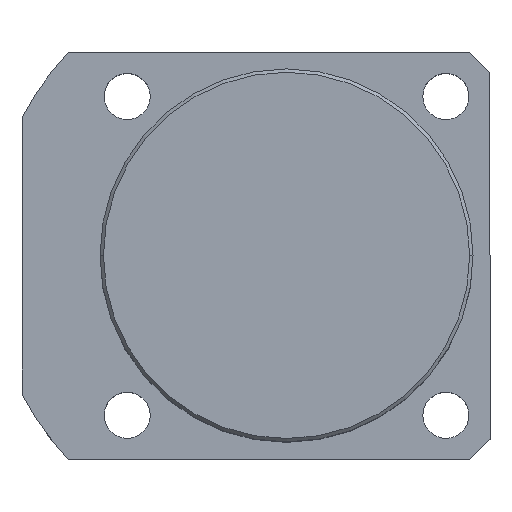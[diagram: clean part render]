
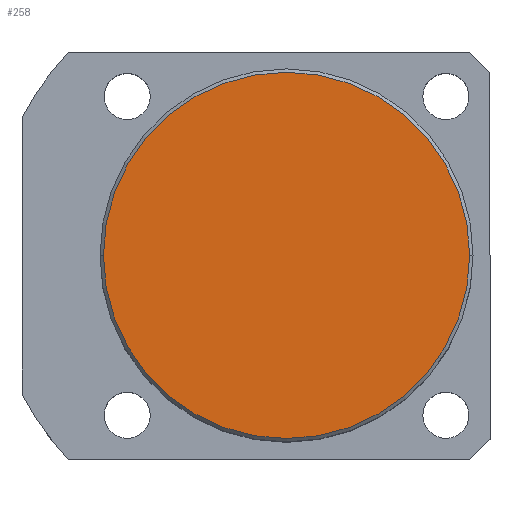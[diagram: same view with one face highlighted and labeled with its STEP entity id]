
A CAD part, top view. The second image highlights one B-rep face of the part: STEP entity #258.
In plain terms, the highlighted planar face has unit normal (0, 0, 1).
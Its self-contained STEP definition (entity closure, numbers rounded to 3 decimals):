
#26 = DIRECTION ( 'NONE',  ( 0., 0., 1. ) ) ;
#258 = ADVANCED_FACE ( 'NONE', ( #1003 ), #875, .T. ) ;
#465 = DIRECTION ( 'NONE',  ( 1., 0., 0. ) ) ;
#875 = PLANE ( 'NONE',  #2321 ) ;
#949 = AXIS2_PLACEMENT_3D ( 'NONE', #4386, #26, #1990 ) ;
#1003 = FACE_OUTER_BOUND ( 'NONE', #2225, .T. ) ;
#1177 = CARTESIAN_POINT ( 'NONE',  ( 0., 0., 50. ) ) ;
#1178 = EDGE_CURVE ( 'NONE', #1734, #2249, #3281, .T. ) ;
#1595 = DIRECTION ( 'NONE',  ( 1., 0., 0. ) ) ;
#1734 = VERTEX_POINT ( 'NONE', #4797 ) ;
#1990 = DIRECTION ( 'NONE',  ( 1., 0., 0. ) ) ;
#2225 = EDGE_LOOP ( 'NONE', ( #2842, #3544 ) ) ;
#2249 = VERTEX_POINT ( 'NONE', #2323 ) ;
#2321 = AXIS2_PLACEMENT_3D ( 'NONE', #3630, #3243, #465 ) ;
#2323 = CARTESIAN_POINT ( 'NONE',  ( -27., 0., 50. ) ) ;
#2842 = ORIENTED_EDGE ( 'NONE', *, *, #3974, .T. ) ;
#3243 = DIRECTION ( 'NONE',  ( 0., 0., 1. ) ) ;
#3281 = CIRCLE ( 'NONE', #949, 27. ) ;
#3544 = ORIENTED_EDGE ( 'NONE', *, *, #1178, .T. ) ;
#3630 = CARTESIAN_POINT ( 'NONE',  ( 0., 0., 50. ) ) ;
#3923 = DIRECTION ( 'NONE',  ( 0., 0., 1. ) ) ;
#3974 = EDGE_CURVE ( 'NONE', #2249, #1734, #4300, .T. ) ;
#4300 = CIRCLE ( 'NONE', #4335, 27. ) ;
#4335 = AXIS2_PLACEMENT_3D ( 'NONE', #1177, #3923, #1595 ) ;
#4386 = CARTESIAN_POINT ( 'NONE',  ( 0., 0., 50. ) ) ;
#4797 = CARTESIAN_POINT ( 'NONE',  ( 27., 0., 50. ) ) ;
